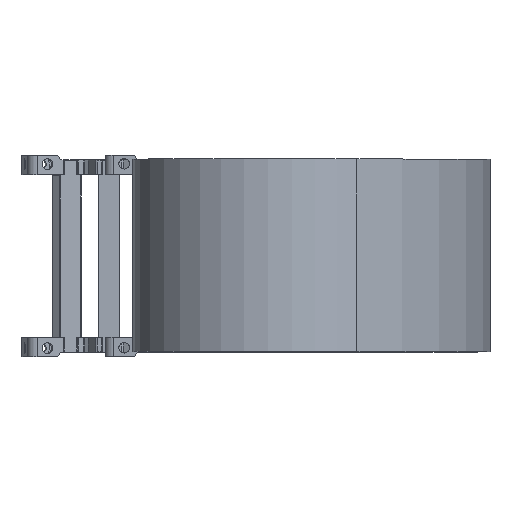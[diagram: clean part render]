
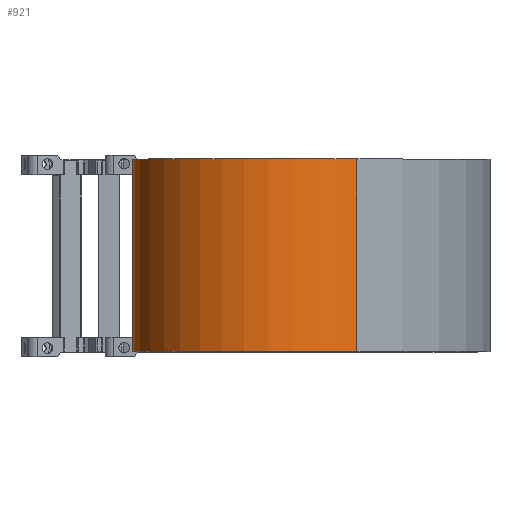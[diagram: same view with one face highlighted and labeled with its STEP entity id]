
A CAD part, top view. The second image highlights one B-rep face of the part: STEP entity #921.
In plain terms, the highlighted cylindrical face has radius 65 mm (diameter 130 mm), a partial arc.
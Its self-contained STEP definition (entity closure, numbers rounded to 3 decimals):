
#921 = ADVANCED_FACE( '', ( #1863 ), #1864, .T. );
#1863 = FACE_OUTER_BOUND( '', #2833, .T. );
#1864 = CYLINDRICAL_SURFACE( '', #2834, 65. );
#2833 = EDGE_LOOP( '', ( #5427, #5428, #5429, #5430 ) );
#2834 = AXIS2_PLACEMENT_3D( '', #5431, #5432, #5433 );
#5427 = ORIENTED_EDGE( '', *, *, #7108, .T. );
#5428 = ORIENTED_EDGE( '', *, *, #7025, .F. );
#5429 = ORIENTED_EDGE( '', *, *, #7109, .F. );
#5430 = ORIENTED_EDGE( '', *, *, #6207, .T. );
#5431 = CARTESIAN_POINT( '', ( 66.12, 45.5, 81.567 ) );
#5432 = DIRECTION( '', ( 0., 1., 0. ) );
#5433 = DIRECTION( '', ( 0., 0., -1. ) );
#6207 = EDGE_CURVE( '', #7553, #7550, #7554, .T. );
#7025 = EDGE_CURVE( '', #8777, #8775, #8779, .T. );
#7108 = EDGE_CURVE( '', #7550, #8775, #8872, .T. );
#7109 = EDGE_CURVE( '', #7553, #8777, #8873, .T. );
#7550 = VERTEX_POINT( '', #9454 );
#7553 = VERTEX_POINT( '', #9457 );
#7554 = LINE( '', #9458, #9459 );
#8775 = VERTEX_POINT( '', #11208 );
#8777 = VERTEX_POINT( '', #11210 );
#8779 = LINE( '', #11212, #11213 );
#8872 = CIRCLE( '', #11350, 65. );
#8873 = CIRCLE( '', #11351, 65. );
#9454 = CARTESIAN_POINT( '', ( 25.189, -45.5, 31.073 ) );
#9457 = CARTESIAN_POINT( '', ( 25.189, 45.5, 31.073 ) );
#9458 = CARTESIAN_POINT( '', ( 25.189, 45.5, 31.073 ) );
#9459 = VECTOR( '', #11702, 1000. );
#11208 = CARTESIAN_POINT( '', ( 107.051, -45.5, 132.061 ) );
#11210 = CARTESIAN_POINT( '', ( 107.051, 45.5, 132.061 ) );
#11212 = CARTESIAN_POINT( '', ( 107.051, 45.5, 132.061 ) );
#11213 = VECTOR( '', #12540, 1000. );
#11350 = AXIS2_PLACEMENT_3D( '', #12591, #12592, #12593 );
#11351 = AXIS2_PLACEMENT_3D( '', #12594, #12595, #12596 );
#11702 = DIRECTION( '', ( 0., -1., 0. ) );
#12540 = DIRECTION( '', ( 0., -1., 0. ) );
#12591 = CARTESIAN_POINT( '', ( 66.12, -45.5, 81.567 ) );
#12592 = DIRECTION( '', ( 0., 1., 0. ) );
#12593 = DIRECTION( '', ( 1., 0., 0. ) );
#12594 = CARTESIAN_POINT( '', ( 66.12, 45.5, 81.567 ) );
#12595 = DIRECTION( '', ( 0., 1., 0. ) );
#12596 = DIRECTION( '', ( 1., 0., 0. ) );
